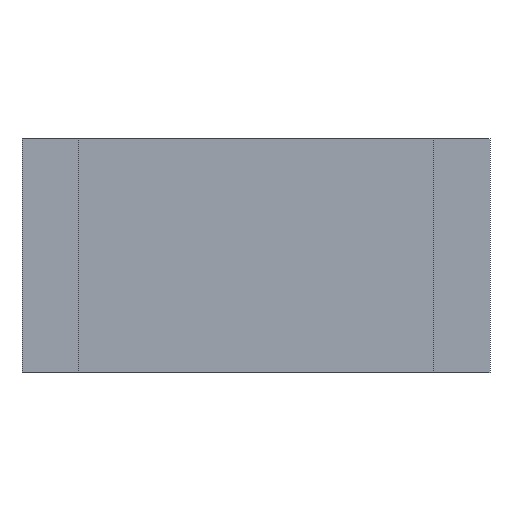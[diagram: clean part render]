
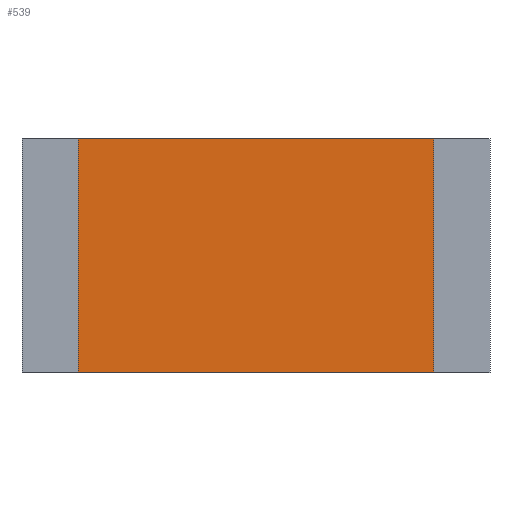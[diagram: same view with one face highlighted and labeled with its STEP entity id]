
A CAD part, front view. The second image highlights one B-rep face of the part: STEP entity #539.
In plain terms, the highlighted planar face has unit normal (0, -1, 0).
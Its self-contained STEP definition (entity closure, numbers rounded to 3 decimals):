
#32 = PLANE('',#33);
#33 = AXIS2_PLACEMENT_3D('',#34,#35,#36);
#34 = CARTESIAN_POINT('',(0.,0.275,-1.25));
#35 = DIRECTION('',(0.,0.,-1.));
#36 = DIRECTION('',(0.,1.,0.));
#136 = VERTEX_POINT('',#137);
#137 = CARTESIAN_POINT('',(1.9,0.15,-1.25));
#158 = EDGE_CURVE('',#136,#159,#161,.T.);
#159 = VERTEX_POINT('',#160);
#160 = CARTESIAN_POINT('',(-1.9,0.15,-1.25));
#161 = SURFACE_CURVE('',#162,(#166,#173),.PCURVE_S1.);
#162 = LINE('',#163,#164);
#163 = CARTESIAN_POINT('',(2.35,0.15,-1.25));
#164 = VECTOR('',#165,1.);
#165 = DIRECTION('',(-1.,0.,0.));
#166 = PCURVE('',#32,#167);
#167 = DEFINITIONAL_REPRESENTATION('',(#168),#172);
#168 = LINE('',#169,#170);
#169 = CARTESIAN_POINT('',(-0.125,2.35));
#170 = VECTOR('',#171,1.);
#171 = DIRECTION('',(0.,-1.));
#172 = ( GEOMETRIC_REPRESENTATION_CONTEXT(2) 
PARAMETRIC_REPRESENTATION_CONTEXT() REPRESENTATION_CONTEXT('2D SPACE',''
  ) );
#173 = PCURVE('',#174,#179);
#174 = PLANE('',#175);
#175 = AXIS2_PLACEMENT_3D('',#176,#177,#178);
#176 = CARTESIAN_POINT('',(2.35,0.15,-1.25));
#177 = DIRECTION('',(0.,-1.,0.));
#178 = DIRECTION('',(-1.,0.,0.));
#179 = DEFINITIONAL_REPRESENTATION('',(#180),#184);
#180 = LINE('',#181,#182);
#181 = CARTESIAN_POINT('',(0.,-0.));
#182 = VECTOR('',#183,1.);
#183 = DIRECTION('',(1.,0.));
#184 = ( GEOMETRIC_REPRESENTATION_CONTEXT(2) 
PARAMETRIC_REPRESENTATION_CONTEXT() REPRESENTATION_CONTEXT('2D SPACE',''
  ) );
#333 = PLANE('',#334);
#334 = AXIS2_PLACEMENT_3D('',#335,#336,#337);
#335 = CARTESIAN_POINT('',(-1.9,0.,-1.25));
#336 = DIRECTION('',(-1.,0.,0.));
#337 = DIRECTION('',(0.,1.,0.));
#524 = PLANE('',#525);
#525 = AXIS2_PLACEMENT_3D('',#526,#527,#528);
#526 = CARTESIAN_POINT('',(1.9,0.,-1.25));
#527 = DIRECTION('',(-1.,0.,0.));
#528 = DIRECTION('',(0.,1.,0.));
#539 = ADVANCED_FACE('',(#540),#174,.T.);
#540 = FACE_BOUND('',#541,.T.);
#541 = EDGE_LOOP('',(#542,#543,#566,#594));
#542 = ORIENTED_EDGE('',*,*,#158,.F.);
#543 = ORIENTED_EDGE('',*,*,#544,.T.);
#544 = EDGE_CURVE('',#136,#545,#547,.T.);
#545 = VERTEX_POINT('',#546);
#546 = CARTESIAN_POINT('',(1.9,0.15,1.25));
#547 = SURFACE_CURVE('',#548,(#552,#559),.PCURVE_S1.);
#548 = LINE('',#549,#550);
#549 = CARTESIAN_POINT('',(1.9,0.15,-1.25));
#550 = VECTOR('',#551,1.);
#551 = DIRECTION('',(0.,0.,1.));
#552 = PCURVE('',#174,#553);
#553 = DEFINITIONAL_REPRESENTATION('',(#554),#558);
#554 = LINE('',#555,#556);
#555 = CARTESIAN_POINT('',(0.45,0.));
#556 = VECTOR('',#557,1.);
#557 = DIRECTION('',(0.,-1.));
#558 = ( GEOMETRIC_REPRESENTATION_CONTEXT(2) 
PARAMETRIC_REPRESENTATION_CONTEXT() REPRESENTATION_CONTEXT('2D SPACE',''
  ) );
#559 = PCURVE('',#524,#560);
#560 = DEFINITIONAL_REPRESENTATION('',(#561),#565);
#561 = LINE('',#562,#563);
#562 = CARTESIAN_POINT('',(0.15,0.));
#563 = VECTOR('',#564,1.);
#564 = DIRECTION('',(0.,-1.));
#565 = ( GEOMETRIC_REPRESENTATION_CONTEXT(2) 
PARAMETRIC_REPRESENTATION_CONTEXT() REPRESENTATION_CONTEXT('2D SPACE',''
  ) );
#566 = ORIENTED_EDGE('',*,*,#567,.T.);
#567 = EDGE_CURVE('',#545,#568,#570,.T.);
#568 = VERTEX_POINT('',#569);
#569 = CARTESIAN_POINT('',(-1.9,0.15,1.25));
#570 = SURFACE_CURVE('',#571,(#575,#582),.PCURVE_S1.);
#571 = LINE('',#572,#573);
#572 = CARTESIAN_POINT('',(2.35,0.15,1.25));
#573 = VECTOR('',#574,1.);
#574 = DIRECTION('',(-1.,0.,0.));
#575 = PCURVE('',#174,#576);
#576 = DEFINITIONAL_REPRESENTATION('',(#577),#581);
#577 = LINE('',#578,#579);
#578 = CARTESIAN_POINT('',(0.,-2.5));
#579 = VECTOR('',#580,1.);
#580 = DIRECTION('',(1.,0.));
#581 = ( GEOMETRIC_REPRESENTATION_CONTEXT(2) 
PARAMETRIC_REPRESENTATION_CONTEXT() REPRESENTATION_CONTEXT('2D SPACE',''
  ) );
#582 = PCURVE('',#583,#588);
#583 = PLANE('',#584);
#584 = AXIS2_PLACEMENT_3D('',#585,#586,#587);
#585 = CARTESIAN_POINT('',(0.,0.275,1.25));
#586 = DIRECTION('',(0.,0.,-1.));
#587 = DIRECTION('',(0.,1.,0.));
#588 = DEFINITIONAL_REPRESENTATION('',(#589),#593);
#589 = LINE('',#590,#591);
#590 = CARTESIAN_POINT('',(-0.125,2.35));
#591 = VECTOR('',#592,1.);
#592 = DIRECTION('',(0.,-1.));
#593 = ( GEOMETRIC_REPRESENTATION_CONTEXT(2) 
PARAMETRIC_REPRESENTATION_CONTEXT() REPRESENTATION_CONTEXT('2D SPACE',''
  ) );
#594 = ORIENTED_EDGE('',*,*,#595,.F.);
#595 = EDGE_CURVE('',#159,#568,#596,.T.);
#596 = SURFACE_CURVE('',#597,(#601,#608),.PCURVE_S1.);
#597 = LINE('',#598,#599);
#598 = CARTESIAN_POINT('',(-1.9,0.15,-1.25));
#599 = VECTOR('',#600,1.);
#600 = DIRECTION('',(0.,0.,1.));
#601 = PCURVE('',#174,#602);
#602 = DEFINITIONAL_REPRESENTATION('',(#603),#607);
#603 = LINE('',#604,#605);
#604 = CARTESIAN_POINT('',(4.25,0.));
#605 = VECTOR('',#606,1.);
#606 = DIRECTION('',(0.,-1.));
#607 = ( GEOMETRIC_REPRESENTATION_CONTEXT(2) 
PARAMETRIC_REPRESENTATION_CONTEXT() REPRESENTATION_CONTEXT('2D SPACE',''
  ) );
#608 = PCURVE('',#333,#609);
#609 = DEFINITIONAL_REPRESENTATION('',(#610),#614);
#610 = LINE('',#611,#612);
#611 = CARTESIAN_POINT('',(0.15,0.));
#612 = VECTOR('',#613,1.);
#613 = DIRECTION('',(0.,-1.));
#614 = ( GEOMETRIC_REPRESENTATION_CONTEXT(2) 
PARAMETRIC_REPRESENTATION_CONTEXT() REPRESENTATION_CONTEXT('2D SPACE',''
  ) );
